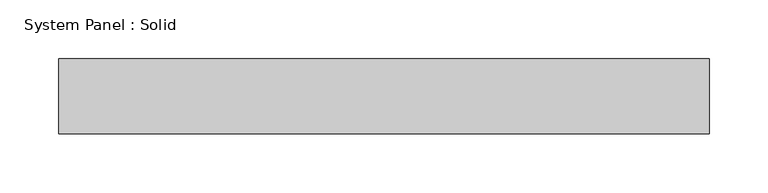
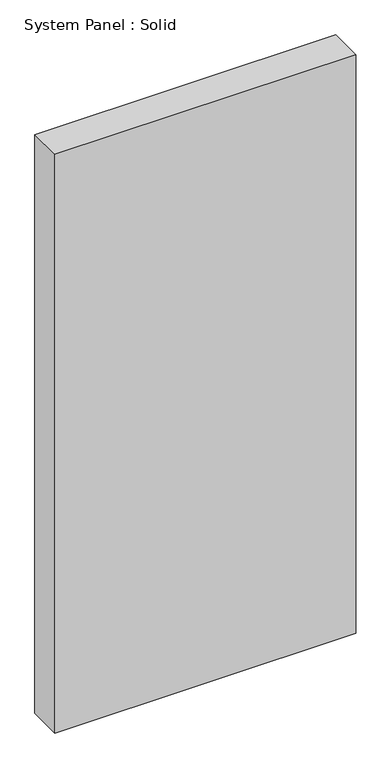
"""IFC4 building model written with IfcOpenShell, lengths in millimetres: plate geometry, System Panel : Solid."""

from ifc_helpers import new_model, si_unit, origin, origin_with_axes, place, context, project, spatial, polyline, outline, extrude, source, transform, mapped, element, save


def system_panel_solid_f04240b3(model_context):
    return source(origin(), model_context, "Body", "SweptSolid", [
        extrude(outline(polyline([(276.225, -44.45), (-276.225, -44.45), (-276.225, 19.05), (276.225, 19.05), (276.225, -44.45)])), origin_with_axes(), (0.0, 0.0, 1.0), 1123.95),
    ])


if __name__ == "__main__":
    model = new_model("IFC4")
    model_context = context("Model", 3, world=origin())
    ifc_project = project(units=[si_unit("LENGTHUNIT", "METRE", prefix="MILLI")], contexts=[model_context])
    site = spatial("IfcSite", under=ifc_project)
    building = spatial("IfcBuilding", under=site)
    placement = place(None, origin())
    system_panel_solid_shape = system_panel_solid_f04240b3(model_context)
    element("IfcPlate", 1, ObjectType="System Panel : Solid", at=placement, inside=building, context=model_context, shape_type="MappedRepresentation", body=[
        mapped(system_panel_solid_shape, transform((0.0, 0.0, 0.0), x_axis=(1.0, 0.0, 0.0), y_axis=(0.0, 1.0, 0.0), z_axis=(0.0, 0.0, 1.0))),
    ])
    save(model, "model.ifc")
